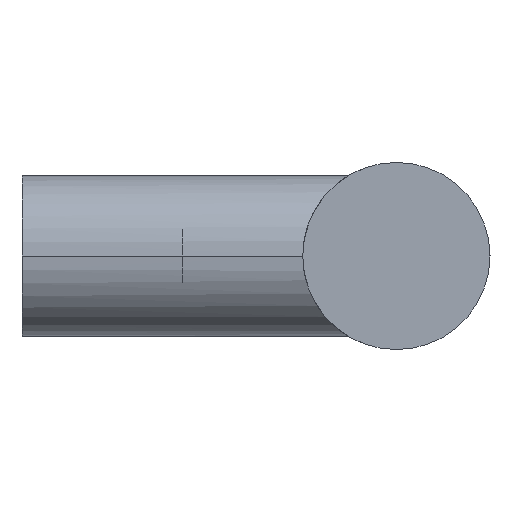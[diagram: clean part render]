
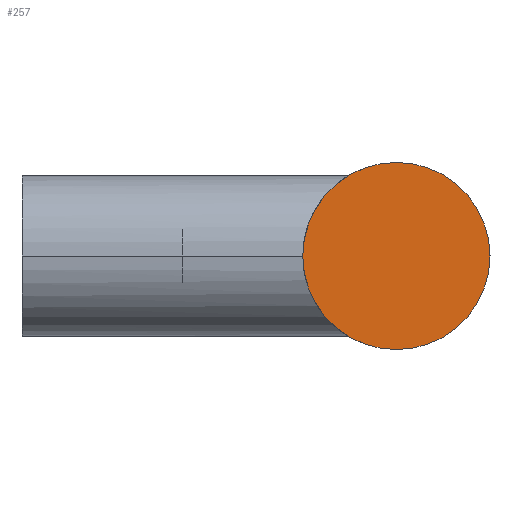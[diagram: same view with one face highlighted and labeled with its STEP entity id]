
A CAD part, left-side view. The second image highlights one B-rep face of the part: STEP entity #257.
In plain terms, the highlighted planar face has unit normal (-1, 0, 0).
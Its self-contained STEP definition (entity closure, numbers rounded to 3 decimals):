
#137 = VERTEX_POINT( '', #351 );
#165 = EDGE_CURVE( '', #183, #137, #383, .T. );
#183 = VERTEX_POINT( '', #401 );
#257 = ADVANCED_FACE( '', ( #489 ), #490, .F. );
#319 = EDGE_CURVE( '', #137, #183, #561, .T. );
#351 = CARTESIAN_POINT( '', ( -30., -28., 7. ) );
#383 = CIRCLE( '', #698, 7. );
#401 = CARTESIAN_POINT( '', ( -30., -28., -7. ) );
#489 = FACE_OUTER_BOUND( '', #866, .T. );
#490 = PLANE( '', #867 );
#561 = CIRCLE( '', #1052, 7. );
#698 = AXIS2_PLACEMENT_3D( '', #1105, #1106, #1107 );
#866 = EDGE_LOOP( '', ( #1239, #1240 ) );
#867 = AXIS2_PLACEMENT_3D( '', #1241, #1242, #1243 );
#1052 = AXIS2_PLACEMENT_3D( '', #1310, #1311, #1312 );
#1105 = CARTESIAN_POINT( '', ( -30., -28., 0. ) );
#1106 = DIRECTION( '', ( 1., 0., 0. ) );
#1107 = DIRECTION( '', ( 0., 0., -1. ) );
#1239 = ORIENTED_EDGE( '', *, *, #165, .F. );
#1240 = ORIENTED_EDGE( '', *, *, #319, .F. );
#1241 = CARTESIAN_POINT( '', ( -30., 0., 0. ) );
#1242 = DIRECTION( '', ( 1., 0., 0. ) );
#1243 = DIRECTION( '', ( 0., 0., -1. ) );
#1310 = CARTESIAN_POINT( '', ( -30., -28., 0. ) );
#1311 = DIRECTION( '', ( 1., 0., 0. ) );
#1312 = DIRECTION( '', ( 0., 0., -1. ) );
